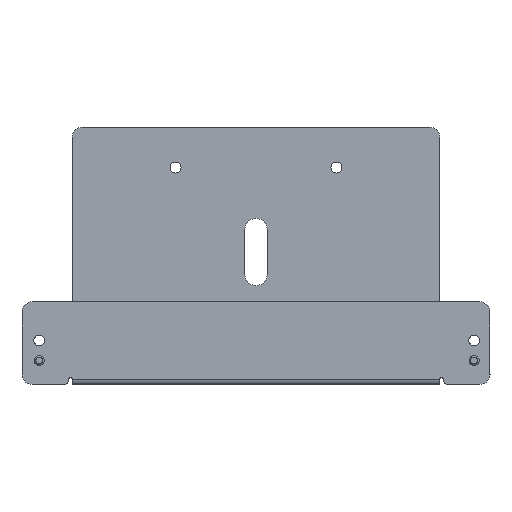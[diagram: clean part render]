
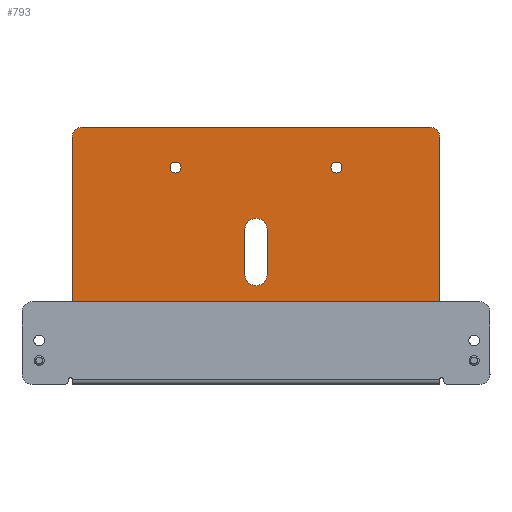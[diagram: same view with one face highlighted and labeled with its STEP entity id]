
A CAD part, top view. The second image highlights one B-rep face of the part: STEP entity #793.
In plain terms, the highlighted planar face has unit normal (0, 0, 1) as drawn and (0, 1, 0) by its records, which use the part's own axes.
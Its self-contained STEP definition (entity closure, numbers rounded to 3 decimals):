
#107=DIRECTION('',(1.,0.,0.));
#108=VECTOR('',#107,109.9);
#109=CARTESIAN_POINT('',(-54.95,18.566,-39.097));
#110=LINE('',#109,#108);
#111=CARTESIAN_POINT('',(51.95,18.565,33.298));
#112=DIRECTION('',(0.,-1.,0.));
#113=DIRECTION('',(1.,0.,0.));
#114=AXIS2_PLACEMENT_3D('',#111,#112,#113);
#116=CARTESIAN_POINT('',(-51.95,18.566,33.298));
#117=DIRECTION('',(0.,-1.,0.));
#118=DIRECTION('',(0.,0.,1.));
#119=AXIS2_PLACEMENT_3D('',#116,#117,#118);
#121=CARTESIAN_POINT('',(24.05,18.566,24.298));
#122=DIRECTION('',(0.,1.,0.));
#123=DIRECTION('',(1.,0.,0.));
#124=AXIS2_PLACEMENT_3D('',#121,#122,#123);
#126=CARTESIAN_POINT('',(24.05,18.566,24.298));
#127=DIRECTION('',(0.,1.,0.));
#128=DIRECTION('',(-1.,0.,0.));
#129=AXIS2_PLACEMENT_3D('',#126,#127,#128);
#131=CARTESIAN_POINT('',(0.,18.566,5.798));
#132=DIRECTION('',(0.,1.,0.));
#133=DIRECTION('',(-1.,0.,0.));
#134=AXIS2_PLACEMENT_3D('',#131,#132,#133);
#136=CARTESIAN_POINT('',(0.,18.566,-7.702));
#137=DIRECTION('',(0.,1.,0.));
#138=DIRECTION('',(1.,0.,0.));
#139=AXIS2_PLACEMENT_3D('',#136,#137,#138);
#141=CARTESIAN_POINT('',(-24.05,18.566,24.298));
#142=DIRECTION('',(0.,1.,0.));
#143=DIRECTION('',(1.,0.,0.));
#144=AXIS2_PLACEMENT_3D('',#141,#142,#143);
#146=CARTESIAN_POINT('',(-24.05,18.566,24.298));
#147=DIRECTION('',(0.,1.,0.));
#148=DIRECTION('',(-1.,0.,0.));
#149=AXIS2_PLACEMENT_3D('',#146,#147,#148);
#151=DIRECTION('',(0.,0.,-1.));
#152=VECTOR('',#151,72.395);
#153=CARTESIAN_POINT('',(54.95,18.565,33.298));
#154=LINE('',#153,#152);
#442=DIRECTION('',(0.,0.,1.));
#443=VECTOR('',#442,72.395);
#444=CARTESIAN_POINT('',(-54.95,18.566,-39.097));
#445=LINE('',#444,#443);
#454=DIRECTION('',(1.,0.,0.));
#455=VECTOR('',#454,103.9);
#456=CARTESIAN_POINT('',(-51.95,18.566,36.298));
#457=LINE('',#456,#455);
#474=DIRECTION('',(0.,0.,-1.));
#475=VECTOR('',#474,13.5);
#476=CARTESIAN_POINT('',(-3.3,18.566,5.798));
#477=LINE('',#476,#475);
#486=DIRECTION('',(0.,0.,1.));
#487=VECTOR('',#486,13.5);
#488=CARTESIAN_POINT('',(3.3,18.566,-7.702));
#489=LINE('',#488,#487);
#572=CARTESIAN_POINT('',(-54.95,18.566,-39.097));
#573=VERTEX_POINT('',#572);
#576=CARTESIAN_POINT('',(54.95,18.565,-39.097));
#577=VERTEX_POINT('',#576);
#578=CARTESIAN_POINT('',(54.95,18.565,33.298));
#579=VERTEX_POINT('',#578);
#580=CARTESIAN_POINT('',(51.95,18.565,36.298));
#581=VERTEX_POINT('',#580);
#582=CARTESIAN_POINT('',(-51.95,18.566,36.298));
#583=VERTEX_POINT('',#582);
#584=CARTESIAN_POINT('',(-54.95,18.566,33.298));
#585=VERTEX_POINT('',#584);
#586=CARTESIAN_POINT('',(25.7,18.566,24.298));
#587=CARTESIAN_POINT('',(22.4,18.566,24.298));
#588=VERTEX_POINT('',#586);
#589=VERTEX_POINT('',#587);
#590=CARTESIAN_POINT('',(-3.3,18.566,5.798));
#591=CARTESIAN_POINT('',(3.3,18.566,5.798));
#592=VERTEX_POINT('',#590);
#593=VERTEX_POINT('',#591);
#594=CARTESIAN_POINT('',(3.3,18.566,-7.702));
#595=VERTEX_POINT('',#594);
#596=CARTESIAN_POINT('',(-3.3,18.566,-7.702));
#597=VERTEX_POINT('',#596);
#598=CARTESIAN_POINT('',(-22.4,18.566,24.298));
#599=CARTESIAN_POINT('',(-25.7,18.566,24.298));
#600=VERTEX_POINT('',#598);
#601=VERTEX_POINT('',#599);
#753=CARTESIAN_POINT('',(0.,18.566,0.));
#754=DIRECTION('',(0.,-1.,0.));
#755=DIRECTION('',(1.,0.,0.));
#756=AXIS2_PLACEMENT_3D('',#753,#754,#755);
#757=PLANE('',#756);
#758=ORIENTED_EDGE('',*,*,#744,.T.);
#760=ORIENTED_EDGE('',*,*,#759,.F.);
#762=ORIENTED_EDGE('',*,*,#761,.T.);
#764=ORIENTED_EDGE('',*,*,#763,.F.);
#766=ORIENTED_EDGE('',*,*,#765,.T.);
#768=ORIENTED_EDGE('',*,*,#767,.F.);
#769=EDGE_LOOP('',(#758,#760,#762,#764,#766,#768));
#770=FACE_OUTER_BOUND('',#769,.F.);
#772=ORIENTED_EDGE('',*,*,#771,.T.);
#774=ORIENTED_EDGE('',*,*,#773,.T.);
#775=EDGE_LOOP('',(#772,#774));
#776=FACE_BOUND('',#775,.F.);
#778=ORIENTED_EDGE('',*,*,#777,.T.);
#780=ORIENTED_EDGE('',*,*,#779,.F.);
#782=ORIENTED_EDGE('',*,*,#781,.T.);
#784=ORIENTED_EDGE('',*,*,#783,.F.);
#785=EDGE_LOOP('',(#778,#780,#782,#784));
#786=FACE_BOUND('',#785,.F.);
#788=ORIENTED_EDGE('',*,*,#787,.T.);
#790=ORIENTED_EDGE('',*,*,#789,.T.);
#791=EDGE_LOOP('',(#788,#790));
#792=FACE_BOUND('',#791,.F.);
#115=CIRCLE('',#114,3.);
#120=CIRCLE('',#119,3.);
#125=CIRCLE('',#124,1.65);
#130=CIRCLE('',#129,1.65);
#135=CIRCLE('',#134,3.3);
#140=CIRCLE('',#139,3.3);
#145=CIRCLE('',#144,1.65);
#150=CIRCLE('',#149,1.65);
#744=EDGE_CURVE('',#573,#577,#110,.T.);
#759=EDGE_CURVE('',#579,#577,#154,.T.);
#761=EDGE_CURVE('',#579,#581,#115,.T.);
#763=EDGE_CURVE('',#583,#581,#457,.T.);
#765=EDGE_CURVE('',#583,#585,#120,.T.);
#767=EDGE_CURVE('',#573,#585,#445,.T.);
#771=EDGE_CURVE('',#588,#589,#125,.T.);
#773=EDGE_CURVE('',#589,#588,#130,.T.);
#777=EDGE_CURVE('',#592,#593,#135,.T.);
#779=EDGE_CURVE('',#595,#593,#489,.T.);
#781=EDGE_CURVE('',#595,#597,#140,.T.);
#783=EDGE_CURVE('',#592,#597,#477,.T.);
#787=EDGE_CURVE('',#600,#601,#145,.T.);
#789=EDGE_CURVE('',#601,#600,#150,.T.);
#793=ADVANCED_FACE('',(#770,#776,#786,#792),#757,.F.);
